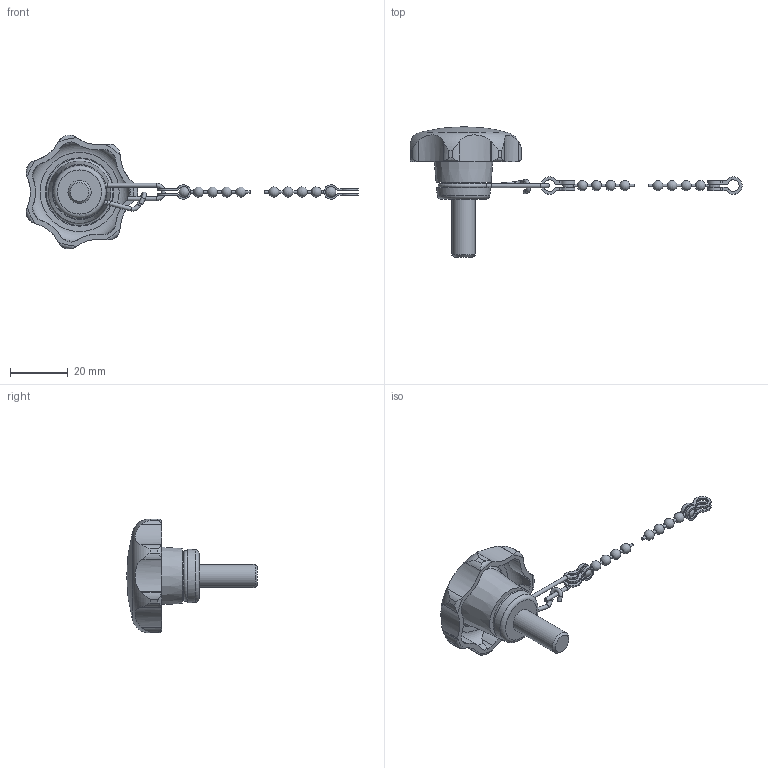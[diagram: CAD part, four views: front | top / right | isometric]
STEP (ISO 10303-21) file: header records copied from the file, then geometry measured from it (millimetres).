
FILE_DESCRIPTION( ( 'STEP AP203' ), '1' );
FILE_NAME( 'C:/Temp/Ganter_Step_05_03_2020/data/2_2/gn_6336_13/gn_6336_13_2/Star knob GN 6336.13-40-M8-20-K.stp', '2020-03-05T12:12:16', ( 'License CC BY-ND 4.0' ), ( 'CADENAS' ), ' ', 'PARTsolutions', ' ' );
FILE_SCHEMA( ( 'CONFIG_CONTROL_DESIGN' ) );
Length unit declared in the file: millimetre
Products named in the file (3): Star knob GN 6336.13-40-M8-20-K; _Star knob GN 6336.13-40-M8-20-K 6; _Star knob GN 111.5-200-14 k2
Assembly tree (2 placements, depth 2):
  Star knob GN 6336.13-40-M8-20-K
    _Star knob GN 6336.13-40-M8-20-K 6
    _Star knob GN 111.5-200-14 k2
Bounding box: 114.5 x 45 x 39.31 mm (x, y, z)
Volume: 12558.1 mm3; surface area: 6880.9 mm2
Topology: 2 solids, 2 shells, 184 faces, 527 edges, 341 vertices
Faces by surface type: cylinder 115, plane 29, torus 18, sphere 11, cone 11
Full cylindrical faces by diameter (mm): 0.9 x10, 1.4 x5, 8 x1, 14.7 x1
Entity records: 6592 total; most frequent: CARTESIAN_POINT 1993, ORIENTED_EDGE 928, DIRECTION 924, EDGE_CURVE 464, AXIS2_PLACEMENT_3D 388, VERTEX_POINT 329, EDGE_LOOP 234, FACE_OUTER_BOUND 219
